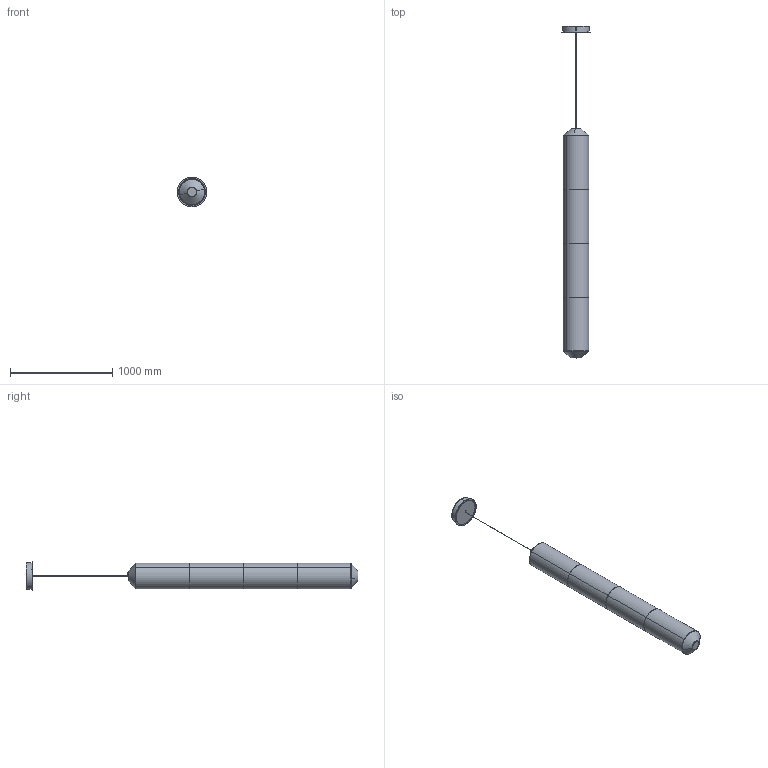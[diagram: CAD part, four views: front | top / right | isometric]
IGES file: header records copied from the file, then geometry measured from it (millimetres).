
Start section: SolidWorks IGES file using analytic representation for surfaces
Global section: file name: C:\Users\bernat.bisbal\Desktop\3D TEKIÒ WEB\TEKVP4.IGS; native system: SolidWorks 2016; preprocessor: SolidWorks 2016; author: bernat.bisbal; date: 180702.145329; units: millimetre
Bounding box: 290 x 3243.01 x 290 mm (x, y, z)
Surface area: 3916153 mm2 (no closed solid volume)
Topology: 0 solids, 0 shells, 188 faces, 4473 edges, 4473 vertices
Faces by surface type: revolution 122, bspline 66
